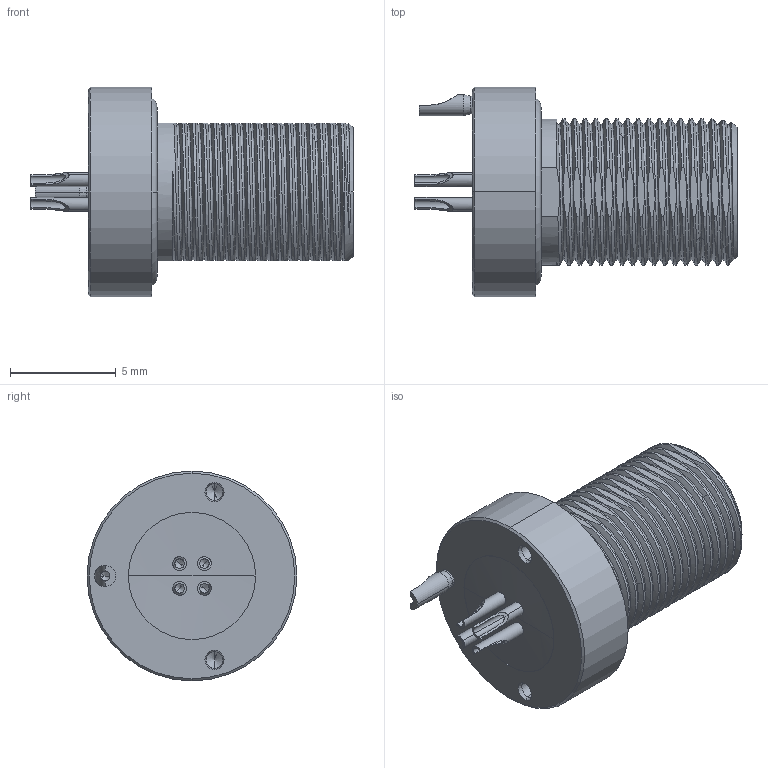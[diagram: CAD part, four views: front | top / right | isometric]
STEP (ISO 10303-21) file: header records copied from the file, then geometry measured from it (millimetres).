
FILE_DESCRIPTION((''),'2;1');
FILE_NAME('00160095--_ASM','2020-10-29T06:57:57',('EUnterhaslberger'),(''),'CREO PARAMETRIC BY PTC INC, 2018300','CREO PARAMETRIC BY PTC INC, 2018300','');
FILE_SCHEMA(('AP242_MANAGED_MODEL_BASED_3D_ENGINEERING_MIM_LF { 1 0 10303 442 1 1 4 }'));
Length unit declared in the file: millimetre
Products named in the file (4): TEMP_SW_STEP_MONOBLOCK_1_1; TEMP_SW_STEP_MONOBLOCK_1_2; TEMP_SW_STEP_MONOBLOCK_1_ASM; 00160095--_ASM
Assembly tree (3 placements, depth 3):
  00160095--_ASM
    TEMP_SW_STEP_MONOBLOCK_1_ASM
      TEMP_SW_STEP_MONOBLOCK_1_1
      TEMP_SW_STEP_MONOBLOCK_1_2
Bounding box: 15.2 x 9.9 x 9.9 mm (x, y, z)
Volume: 437.7 mm3; surface area: 859.8 mm2
Topology: 2 solids, 2 shells, 300 faces, 804 edges, 516 vertices
Faces by surface type: plane 110, cylinder 107, cone 40, bspline 21, torus 19, sphere 3
Entity records: 24536 total; most frequent: CARTESIAN_POINT 15154, ORIENTED_EDGE 1576, DIRECTION 1354, EDGE_CURVE 788, AXIS2_PLACEMENT_3D 522, VERTEX_POINT 516, EDGE_LOOP 326, VECTOR 310
